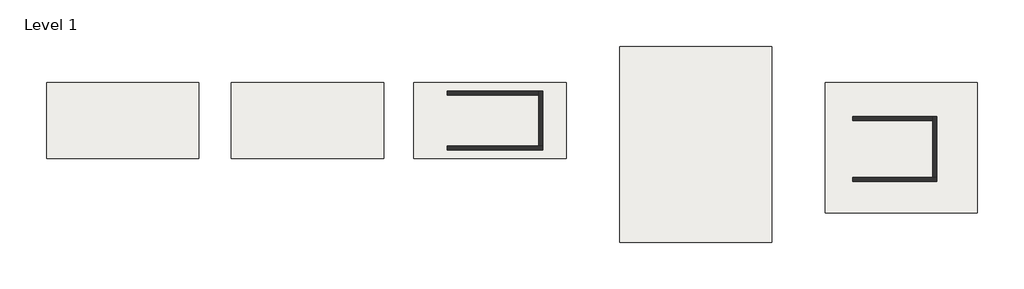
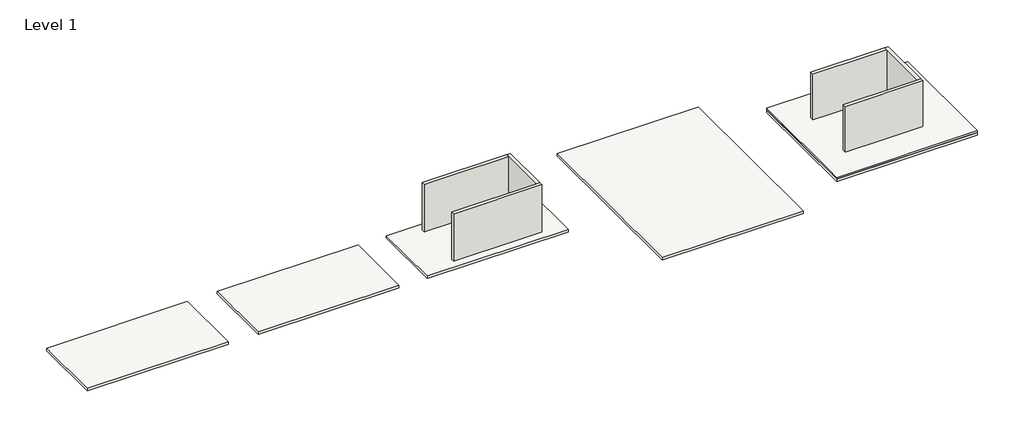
# One storey: 6 slabs, 6 walls.
"""IFC4 building model written with IfcOpenShell, lengths in millimetres."""

from ifc_helpers import new_model, si_unit, frame, origin, origin_with_axes, place, context, project, spatial, polyline, outline, extrude, faceted_brep, element, save

model = new_model("IFC4")

# Units and contexts
model_context = context("Model", 3, world=origin())
ifc_project = project(units=[si_unit("LENGTHUNIT", "METRE", prefix="MILLI")], contexts=[model_context])

# Site, building, storey
site = spatial("IfcSite", under=ifc_project)
building = spatial("IfcBuilding", under=site)
storey = spatial("IfcBuildingStorey", under=building, Name="Level 1", Elevation=0.0)

# Slabs
placement = place(None, origin())
element("IfcSlab", 1, ObjectType="Floor Ceramic", at=placement, inside=storey, context=model_context, shape_type="SweptSolid", body=[
    extrude(outline(polyline([(30064.825027, 17945.8514829), (30064.825027, 11098.1620551), (22064.825027, 11098.1620551), (22064.825027, 17945.8514829), (30064.825027, 17945.8514829)])), origin_with_axes(), (0.0, 0.0, 1.0), 100.0),
])
element("IfcSlab", 2, ObjectType="Generic 150mm", at=placement, inside=storey, context=model_context, shape_type="SweptSolid", body=[
    extrude(outline(polyline([(8464.825027, 17945.8514829), (8464.825027, 13945.8514829), (464.825027, 13945.8514829), (464.825027, 17945.8514829), (8464.825027, 17945.8514829)])), frame((0.0, 0.0, -150.0), z_axis=(0.0, 0.0, 1.0), x_axis=(1.0, 0.0, 0.0)), (0.0, 0.0, 1.0), 150.0),
])
element("IfcSlab", 3, ObjectType="Generic 150mm", at=placement, inside=storey, context=model_context, shape_type="SweptSolid", body=[
    extrude(outline(polyline([(19264.825027, 19847.6338649), (19264.825027, 9547.6338649), (11264.825027, 9547.6338649), (11264.825027, 19847.6338649), (19264.825027, 19847.6338649)])), frame((0.0, 0.0, -150.0), z_axis=(0.0, 0.0, 1.0), x_axis=(1.0, 0.0, 0.0)), (0.0, 0.0, 1.0), 150.0),
])
element("IfcSlab", 4, ObjectType="Generic 150mm", at=placement, inside=storey, context=model_context, shape_type="SweptSolid", body=[
    extrude(outline(polyline([(30064.825027, 17945.8514829), (30064.825027, 11098.1620551), (22064.825027, 11098.1620551), (22064.825027, 17945.8514829), (30064.825027, 17945.8514829)])), frame((0.0, 0.0, -150.0), z_axis=(0.0, 0.0, 1.0), x_axis=(1.0, 0.0, 0.0)), (0.0, 0.0, 1.0), 150.0),
])
element("IfcSlab", 5, ObjectType="Generic 150mm", at=placement, inside=storey, context=model_context, shape_type="SweptSolid", body=[
    extrude(outline(polyline([(-10835.174973, 17945.8514829), (-10835.174973, 13945.8514829), (-18835.174973, 13945.8514829), (-18835.174973, 17945.8514829), (-10835.174973, 17945.8514829)])), frame((0.0, 0.0, -150.0), z_axis=(0.0, 0.0, 1.0), x_axis=(1.0, 0.0, 0.0)), (0.0, 0.0, 1.0), 150.0),
])
element("IfcSlab", 6, ObjectType="Generic 150mm", at=placement, inside=storey, context=model_context, shape_type="SweptSolid", body=[
    extrude(outline(polyline([(-1135.174973, 17945.8514829), (-1135.174973, 13945.8514829), (-9135.174973, 13945.8514829), (-9135.174973, 17945.8514829), (-1135.174973, 17945.8514829)])), frame((0.0, 0.0, -150.0), z_axis=(0.0, 0.0, 1.0), x_axis=(1.0, 0.0, 0.0)), (0.0, 0.0, 1.0), 150.0),
])

# Walls
element("IfcWall", 7, ObjectType="Generic - 200mm", at=placement, inside=storey, context=model_context, shape_type="Brep", body=[
    faceted_brep([(2226.3741396, 14398.1620551, 0.0), (7225.9741396, 14398.1620551, 0.0), (7225.9741396, 14398.1620551, 2850.0), (2226.3741396, 14398.1620551, 2850.0), (2226.3741396, 14598.1620551, 0.0), (2226.3741396, 14598.1620551, 2850.0), (7025.9741396, 14598.1620551, 2850.0), (7225.9741396, 14598.1620551, 2850.0), (7225.9741396, 14598.1620551, 0.0), (7025.9741396, 14598.1620551, 0.0)], [[[0, 1, 2, 3]], [[4, 5, 6, 7, 8, 9]], [[1, 0, 4, 9, 8]], [[0, 3, 5, 4]], [[2, 1, 8, 7]], [[3, 2, 7, 6, 5]]]),
])
element("IfcWall", 8, ObjectType="Generic - 200mm", at=placement, inside=storey, context=model_context, shape_type="Brep", body=[
    faceted_brep([(7225.9741396, 14598.1620551, 0.0), (7225.9741396, 17498.1620551, 0.0), (7225.9741396, 17498.1620551, 2850.0), (7225.9741396, 14598.1620551, 2850.0), (7025.9741396, 14598.1620551, 0.0), (7025.9741396, 14598.1620551, 2850.0), (7025.9741396, 17298.1620551, 2850.0), (7025.9741396, 17498.1620551, 2850.0), (7025.9741396, 17498.1620551, 0.0), (7025.9741396, 17298.1620551, 0.0)], [[[0, 1, 2, 3]], [[4, 5, 6, 7, 8, 9]], [[1, 0, 4, 9, 8]], [[0, 3, 5, 4]], [[2, 1, 8, 7]], [[3, 2, 7, 6, 5]]]),
])
element("IfcWall", 9, ObjectType="Generic - 200mm", at=placement, inside=storey, context=model_context, shape_type="Brep", body=[
    faceted_brep([(7025.9741396, 17498.1620551, 0.0), (2226.3741396, 17498.1620551, 0.0), (2226.3741396, 17498.1620551, 2850.0), (7025.9741396, 17498.1620551, 2850.0), (7025.9741396, 17298.1620551, 0.0), (7025.9741396, 17298.1620551, 2850.0), (3936.3741396, 17298.1620551, 2850.0), (2226.3741396, 17298.1620551, 2850.0), (2226.3741396, 17298.1620551, 0.0)], [[[0, 1, 2, 3]], [[4, 5, 6, 7, 8]], [[1, 0, 4, 8]], [[2, 1, 8, 7]], [[0, 3, 5, 4]], [[3, 2, 7, 6, 5]]]),
])
element("IfcWall", 10, ObjectType="Generic - 200mm", at=placement, inside=storey, context=model_context, shape_type="Brep", body=[
    faceted_brep([(27917.0058959, 12749.8804966, 2850.0), (23517.0058959, 12749.8804966, 2850.0), (23517.0058959, 12749.8804966, 100.0), (27917.0058959, 12749.8804966, 100.0), (23517.0058959, 12949.8804966, 2850.0), (26517.0058959, 12949.8804966, 2850.0), (27717.0058959, 12949.8804966, 2850.0), (27917.0058959, 12949.8804966, 2850.0), (27917.0058959, 12949.8804966, 100.0), (27717.0058959, 12949.8804966, 100.0), (23517.0058959, 12949.8804966, 100.0)], [[[0, 1, 2, 3]], [[4, 5, 6, 7, 8, 9, 10]], [[1, 4, 10, 2]], [[7, 0, 3, 8]], [[4, 1, 0, 7, 6, 5]], [[3, 2, 10, 9, 8]]]),
])
element("IfcWall", 11, ObjectType="Generic - 200mm", at=placement, inside=storey, context=model_context, shape_type="Brep", body=[
    faceted_brep([(27917.0058959, 16149.8804966, 2850.0), (27917.0058959, 12949.8804966, 2850.0), (27917.0058959, 12949.8804966, 241.0), (27917.0058959, 12949.8804966, 100.0), (27917.0058959, 16149.8804966, 100.0), (27717.0058959, 12949.8804966, 2850.0), (27717.0058959, 15949.8804966, 2850.0), (27717.0058959, 16149.8804966, 2850.0), (27717.0058959, 16149.8804966, 241.0), (27717.0058959, 16149.8804966, 100.0), (27717.0058959, 12949.8804966, 100.0)], [[[0, 1, 2, 3, 4]], [[5, 6, 7, 8, 9, 10]], [[1, 5, 10, 3, 2]], [[7, 0, 4, 9, 8]], [[5, 1, 0, 7, 6]], [[4, 3, 10, 9]]]),
])
element("IfcWall", 12, ObjectType="Generic - 200mm", at=placement, inside=storey, context=model_context, shape_type="Brep", body=[
    faceted_brep([(23517.0058959, 16149.8804966, 2850.0), (27717.0058959, 16149.8804966, 2850.0), (27717.0058959, 16149.8804966, 100.0), (23517.0058959, 16149.8804966, 100.0), (27717.0058959, 15949.8804966, 2850.0), (26517.0058959, 15949.8804966, 2850.0), (23517.0058959, 15949.8804966, 2850.0), (23517.0058959, 15949.8804966, 100.0), (27717.0058959, 15949.8804966, 100.0)], [[[0, 1, 2, 3]], [[4, 5, 6, 7, 8]], [[6, 0, 3, 7]], [[1, 4, 8, 2]], [[4, 1, 0, 6, 5]], [[3, 2, 8, 7]]]),
])

save(model, "model.ifc")
